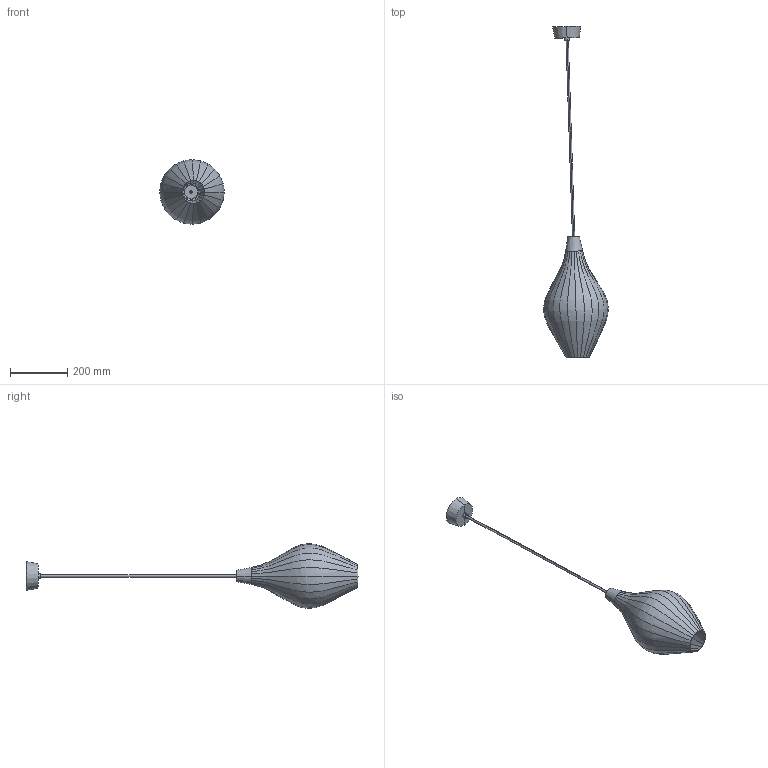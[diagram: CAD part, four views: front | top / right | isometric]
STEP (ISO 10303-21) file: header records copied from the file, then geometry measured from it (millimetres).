
FILE_DESCRIPTION(('STEP AP214'),'1');
FILE_NAME('Savaii.stp','2018-12-19T01:03:21',(' '),(' '),'Spatial InterOp 3D',' ',' ');
FILE_SCHEMA(('AUTOMOTIVE_DESIGN { 1 0 10303 214 1 1 1 1 }'));
Length unit declared in the file: metre
Products named in the file (2): Savaii
Assembly tree (1 placements, depth 2):
  Savaii
    Savaii
Bounding box: 225.44 x 1161.5 x 225.59 mm (x, y, z)
Volume: 273286.3 mm3; surface area: 263902.8 mm2
Topology: 1 solids, 28 shells, 43 faces, 141 edges, 126 vertices
Faces by surface type: revolution 24, cone 8, torus 4, cylinder 4, plane 3
Entity records: 5426 total; most frequent: CARTESIAN_POINT 3594, DIRECTION 239, ORIENTED_EDGE 174, EDGE_CURVE 140, VERTEX_POINT 124, AXIS2_PLACEMENT_3D 101, CIRCLE 80, STYLED_ITEM 73
